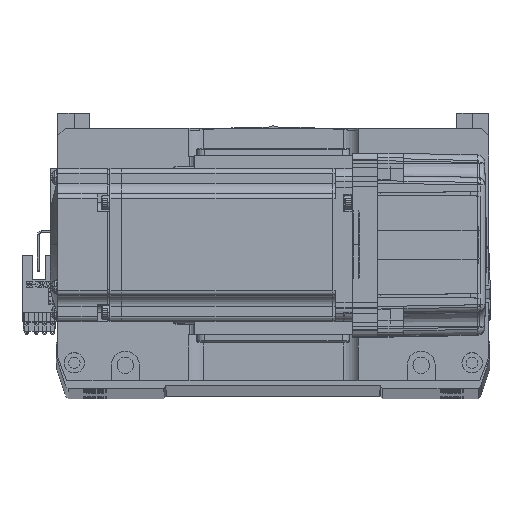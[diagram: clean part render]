
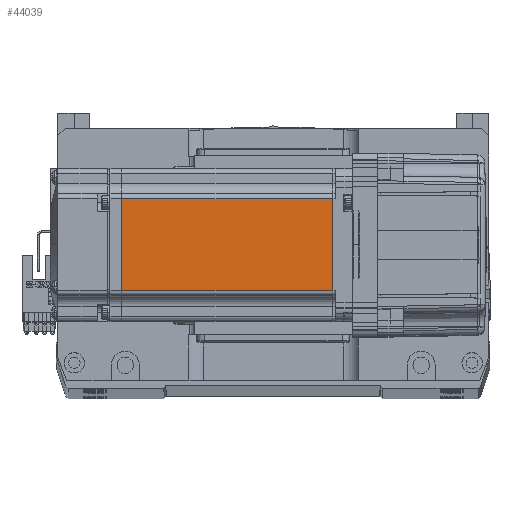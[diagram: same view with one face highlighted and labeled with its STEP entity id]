
A CAD part, top view. The second image highlights one B-rep face of the part: STEP entity #44039.
In plain terms, the highlighted planar face has unit normal (0, 0, 1).
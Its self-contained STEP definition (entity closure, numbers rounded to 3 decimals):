
#4052 = DIRECTION ( 'NONE',  ( 0., -1., 0. ) ) ;
#4471 = EDGE_CURVE ( 'NONE', #48451, #9218, #8101, .T. ) ;
#7257 = DIRECTION ( 'NONE',  ( -1., 0., 0. ) ) ;
#8101 = LINE ( 'NONE', #20357, #48647 ) ;
#8974 = DIRECTION ( 'NONE',  ( 0., -1., 0. ) ) ;
#9218 = VERTEX_POINT ( 'NONE', #12885 ) ;
#9913 = DIRECTION ( 'NONE',  ( 0., 0., 1. ) ) ;
#10154 = LINE ( 'NONE', #41049, #54774 ) ;
#12154 = CARTESIAN_POINT ( 'NONE',  ( -90.45, 18., 30. ) ) ;
#12885 = CARTESIAN_POINT ( 'NONE',  ( -90.45, -18., 30. ) ) ;
#13613 = EDGE_CURVE ( 'NONE', #15000, #9218, #63862, .T. ) ;
#15000 = VERTEX_POINT ( 'NONE', #29778 ) ;
#20357 = CARTESIAN_POINT ( 'NONE',  ( -90.45, 0., 30. ) ) ;
#27305 = CARTESIAN_POINT ( 'NONE',  ( -6.5, 18., 30. ) ) ;
#28412 = ORIENTED_EDGE ( 'NONE', *, *, #13613, .F. ) ;
#29778 = CARTESIAN_POINT ( 'NONE',  ( -7.75, -18., 30. ) ) ;
#29987 = LINE ( 'NONE', #27305, #49020 ) ;
#30517 = PLANE ( 'NONE',  #39095 ) ;
#32177 = ORIENTED_EDGE ( 'NONE', *, *, #61177, .F. ) ;
#32464 = VERTEX_POINT ( 'NONE', #59205 ) ;
#35832 = CARTESIAN_POINT ( 'NONE',  ( -6.5, -25., 30. ) ) ;
#39095 = AXIS2_PLACEMENT_3D ( 'NONE', #35832, #9913, #46903 ) ;
#39175 = CARTESIAN_POINT ( 'NONE',  ( -6.5, -18., 30. ) ) ;
#41049 = CARTESIAN_POINT ( 'NONE',  ( -7.75, 0., 30. ) ) ;
#44039 = ADVANCED_FACE ( 'NONE', ( #61118 ), #30517, .T. ) ;
#46903 = DIRECTION ( 'NONE',  ( 1., 0., 0. ) ) ;
#48451 = VERTEX_POINT ( 'NONE', #12154 ) ;
#48647 = VECTOR ( 'NONE', #8974, 1000. ) ;
#48753 = EDGE_CURVE ( 'NONE', #32464, #48451, #29987, .T. ) ;
#49020 = VECTOR ( 'NONE', #53635, 1000. ) ;
#53372 = ORIENTED_EDGE ( 'NONE', *, *, #4471, .T. ) ;
#53635 = DIRECTION ( 'NONE',  ( -1., 0., 0. ) ) ;
#54774 = VECTOR ( 'NONE', #4052, 1000. ) ;
#59205 = CARTESIAN_POINT ( 'NONE',  ( -7.75, 18., 30. ) ) ;
#61118 = FACE_OUTER_BOUND ( 'NONE', #64622, .T. ) ;
#61177 = EDGE_CURVE ( 'NONE', #32464, #15000, #10154, .T. ) ;
#63862 = LINE ( 'NONE', #39175, #67204 ) ;
#64622 = EDGE_LOOP ( 'NONE', ( #32177, #67229, #53372, #28412 ) ) ;
#67204 = VECTOR ( 'NONE', #7257, 1000. ) ;
#67229 = ORIENTED_EDGE ( 'NONE', *, *, #48753, .T. ) ;
